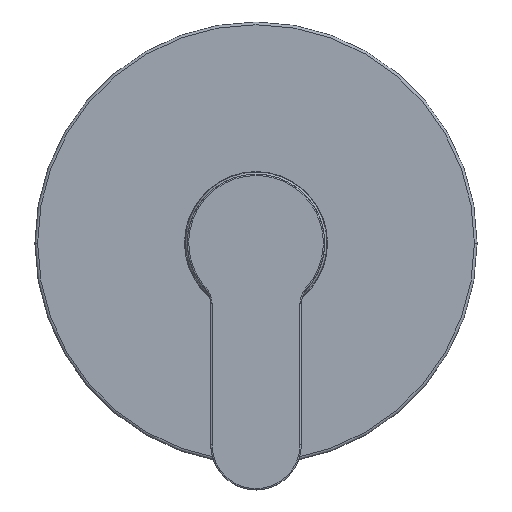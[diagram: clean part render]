
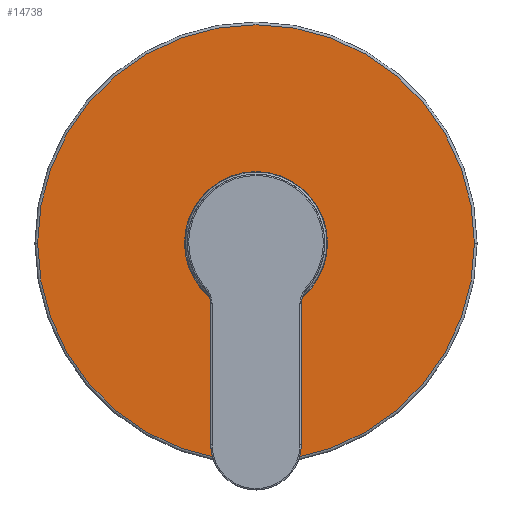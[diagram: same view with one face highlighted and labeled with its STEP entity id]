
A CAD part, top view. The second image highlights one B-rep face of the part: STEP entity #14738.
In plain terms, the highlighted planar face has unit normal (0, 0, 1).
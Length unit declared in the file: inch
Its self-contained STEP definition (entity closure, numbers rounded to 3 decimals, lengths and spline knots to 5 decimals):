
#47 = ORIENTED_EDGE ( 'NONE', *, *, #653, .F. ) ;
#129 = DIRECTION ( 'NONE',  ( 0., 0., 1. ) ) ;
#337 = FACE_OUTER_BOUND ( 'NONE', #39080, .T. ) ;
#469 = DIRECTION ( 'NONE',  ( 0., 0., 1. ) ) ;
#653 = EDGE_CURVE ( 'NONE', #31638, #21280, #18350, .T. ) ;
#3691 = DIRECTION ( 'NONE',  ( 0., 0., 1. ) ) ;
#6732 = CARTESIAN_POINT ( 'NONE',  ( -1.16196, -6.26746, 5.29859 ) ) ;
#6981 = AXIS2_PLACEMENT_3D ( 'NONE', #9825, #3691, #10022 ) ;
#7756 = EDGE_CURVE ( 'NONE', #22116, #39487, #23288, .T. ) ;
#9056 = CARTESIAN_POINT ( 'NONE',  ( 0.94317, -6.26746, 5.29859 ) ) ;
#9418 = ORIENTED_EDGE ( 'NONE', *, *, #15560, .T. ) ;
#9755 = CARTESIAN_POINT ( 'NONE',  ( 1.96867, -6.26746, 5.29859 ) ) ;
#9825 = CARTESIAN_POINT ( 'NONE',  ( 1.96867, -6.26746, 5.29859 ) ) ;
#10022 = DIRECTION ( 'NONE',  ( 1., 0., 0. ) ) ;
#12405 = PLANE ( 'NONE',  #30788 ) ;
#12617 = DIRECTION ( 'NONE',  ( 1., 0., 0. ) ) ;
#14738 = ADVANCED_FACE ( 'NONE', ( #337, #40440 ), #12405, .T. ) ;
#15560 = EDGE_CURVE ( 'NONE', #39487, #22116, #20366, .T. ) ;
#18350 = CIRCLE ( 'NONE', #34737, 1.0255 ) ;
#19234 = CIRCLE ( 'NONE', #21831, 1.0255 ) ;
#19679 = DIRECTION ( 'NONE',  ( 1., 0., 0. ) ) ;
#20366 = CIRCLE ( 'NONE', #33485, 3.13063 ) ;
#21280 = VERTEX_POINT ( 'NONE', #9056 ) ;
#21831 = AXIS2_PLACEMENT_3D ( 'NONE', #25660, #469, #34876 ) ;
#22116 = VERTEX_POINT ( 'NONE', #6732 ) ;
#23288 = CIRCLE ( 'NONE', #6981, 3.13063 ) ;
#25660 = CARTESIAN_POINT ( 'NONE',  ( 1.96867, -6.26746, 5.29859 ) ) ;
#27234 = CARTESIAN_POINT ( 'NONE',  ( 1.96867, -6.26746, 5.29859 ) ) ;
#28912 = DIRECTION ( 'NONE',  ( 0., 0., 1. ) ) ;
#29906 = ORIENTED_EDGE ( 'NONE', *, *, #7756, .T. ) ;
#30520 = DIRECTION ( 'NONE',  ( 1., 0., 0. ) ) ;
#30788 = AXIS2_PLACEMENT_3D ( 'NONE', #9755, #129, #12617 ) ;
#30859 = CARTESIAN_POINT ( 'NONE',  ( 2.99417, -6.26746, 5.29859 ) ) ;
#31638 = VERTEX_POINT ( 'NONE', #30859 ) ;
#33485 = AXIS2_PLACEMENT_3D ( 'NONE', #38307, #28912, #19679 ) ;
#34737 = AXIS2_PLACEMENT_3D ( 'NONE', #27234, #36831, #30520 ) ;
#34876 = DIRECTION ( 'NONE',  ( 1., 0., 0. ) ) ;
#35035 = EDGE_CURVE ( 'NONE', #21280, #31638, #19234, .T. ) ;
#36831 = DIRECTION ( 'NONE',  ( 0., 0., 1. ) ) ;
#37461 = EDGE_LOOP ( 'NONE', ( #47, #38858 ) ) ;
#37888 = CARTESIAN_POINT ( 'NONE',  ( 5.0993, -6.26746, 5.29859 ) ) ;
#38307 = CARTESIAN_POINT ( 'NONE',  ( 1.96867, -6.26746, 5.29859 ) ) ;
#38858 = ORIENTED_EDGE ( 'NONE', *, *, #35035, .F. ) ;
#39080 = EDGE_LOOP ( 'NONE', ( #9418, #29906 ) ) ;
#39487 = VERTEX_POINT ( 'NONE', #37888 ) ;
#40440 = FACE_BOUND ( 'NONE', #37461, .T. ) ;
